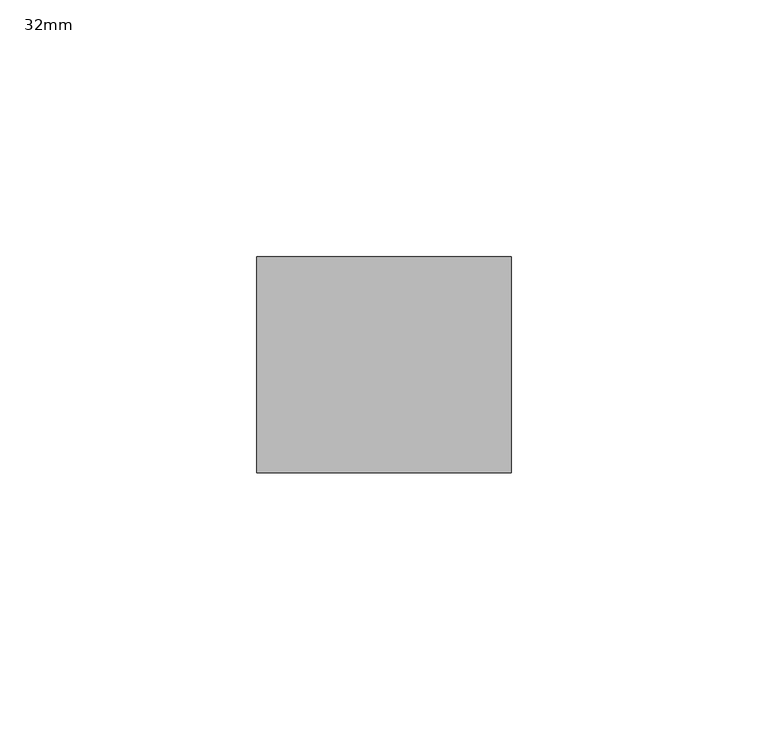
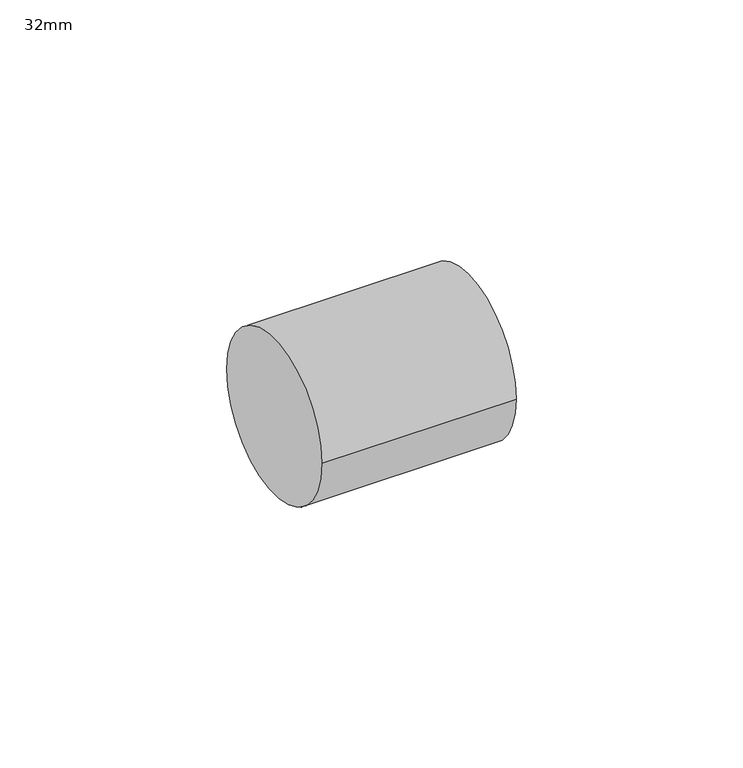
"""IFC4 building model written with IfcOpenShell, lengths in millimetres: pipe fitting geometry, PipeFitting_HTA_CPVC_Couplings : 32mm."""

from ifc_helpers import new_model, si_unit, point, frame, origin, origin_2d, place, context, project, spatial, circle_curve, trimmed, segment, composite_curve, outline, extrude, source, transform, mapped, element, save


def pipe_fitting_32mm_4c8309c4(model_context):
    return source(origin(), model_context, "Body", "SweptSolid", [
        extrude(outline(composite_curve([segment(trimmed(circle_curve(origin_2d(), 21.0), [point((-21.0, 0.0))], [point((21.0, 0.0))], False, "CARTESIAN"), True, "CONTINUOUS"), segment(trimmed(circle_curve(origin_2d(), 21.0), [point((21.0, 0.0))], [point((-21.0, 0.0))], False, "CARTESIAN"), True, "CONTINUOUS")], self_intersect=False)), frame((-24.75, 0.0, 0.0), z_axis=(1.0, 0.0, 0.0), x_axis=(0.0, 1.0, 0.0)), (0.0, 0.0, 1.0), 49.5),
    ])


if __name__ == "__main__":
    model = new_model("IFC4")
    model_context = context("Model", 3, world=origin())
    ifc_project = project(units=[si_unit("LENGTHUNIT", "METRE", prefix="MILLI")], contexts=[model_context])
    site = spatial("IfcSite", under=ifc_project)
    building = spatial("IfcBuilding", under=site)
    placement = place(None, origin())
    pipe_fitting_32mm_shape = pipe_fitting_32mm_4c8309c4(model_context)
    element("IfcPipeFitting", 1, ObjectType="PipeFitting_HTA_CPVC_Couplings : 32mm", at=placement, inside=building, context=model_context, shape_type="MappedRepresentation", body=[
        mapped(pipe_fitting_32mm_shape, transform((0.0, 0.0, 0.0), x_axis=(1.0, 0.0, 0.0), y_axis=(0.0, 1.0, 0.0), z_axis=(0.0, 0.0, 1.0))),
    ])
    save(model, "model.ifc")
